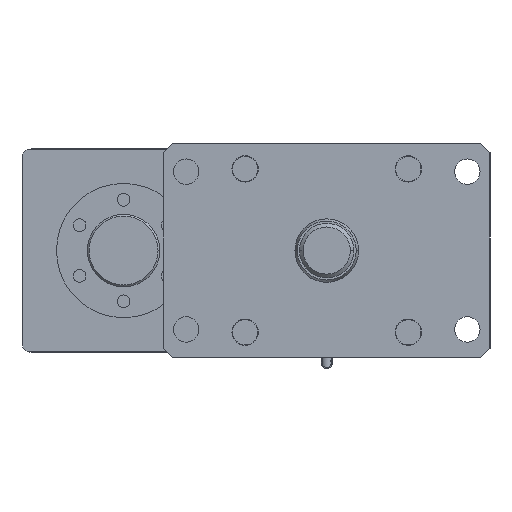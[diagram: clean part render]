
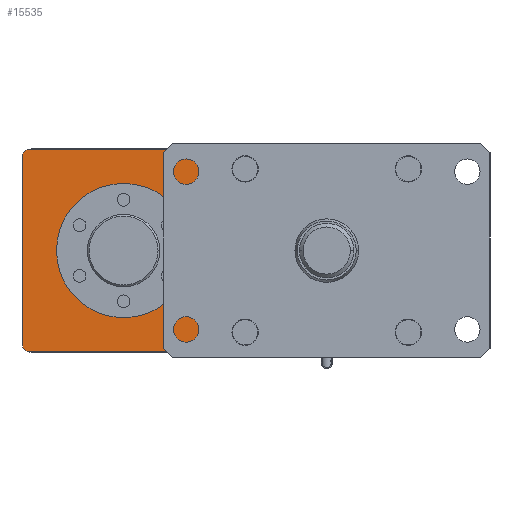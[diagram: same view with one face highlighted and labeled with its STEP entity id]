
A CAD part, front view. The second image highlights one B-rep face of the part: STEP entity #15535.
In plain terms, the highlighted planar face has unit normal (0, -1, 0).
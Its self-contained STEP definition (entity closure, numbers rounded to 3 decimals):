
#39 = DIRECTION ( 'NONE',  ( -1., 0., 0. ) ) ;
#62 = CARTESIAN_POINT ( 'NONE',  ( -167.8, 0., 56. ) ) ;
#164 = VERTEX_POINT ( 'NONE', #12660 ) ;
#197 = CIRCLE ( 'NONE', #7258, 5. ) ;
#329 = LINE ( 'NONE', #13596, #6973 ) ;
#465 = VERTEX_POINT ( 'NONE', #10679 ) ;
#843 = ORIENTED_EDGE ( 'NONE', *, *, #2552, .F. ) ;
#851 = DIRECTION ( 'NONE',  ( -1., 0., 0. ) ) ;
#911 = AXIS2_PLACEMENT_3D ( 'NONE', #4147, #12811, #5397 ) ;
#1033 = CIRCLE ( 'NONE', #14967, 5. ) ;
#1332 = ORIENTED_EDGE ( 'NONE', *, *, #4478, .T. ) ;
#1899 = CARTESIAN_POINT ( 'NONE',  ( -167.8, 0., 52.4 ) ) ;
#1992 = EDGE_LOOP ( 'NONE', ( #12043, #11557, #2726, #1332, #10329, #14649, #9023 ) ) ;
#2257 = VERTEX_POINT ( 'NONE', #7689 ) ;
#2552 = EDGE_CURVE ( 'NONE', #6681, #14358, #4606, .T. ) ;
#2726 = ORIENTED_EDGE ( 'NONE', *, *, #13349, .T. ) ;
#2752 = EDGE_LOOP ( 'NONE', ( #843, #8489 ) ) ;
#2757 = VECTOR ( 'NONE', #10331, 1000. ) ;
#2807 = FACE_OUTER_BOUND ( 'NONE', #1992, .T. ) ;
#2929 = CARTESIAN_POINT ( 'NONE',  ( -112., 0., -37. ) ) ;
#3118 = CARTESIAN_POINT ( 'NONE',  ( -163., 0., -51. ) ) ;
#3265 = VERTEX_POINT ( 'NONE', #9134 ) ;
#3645 = DIRECTION ( 'NONE',  ( 0., 0., 1. ) ) ;
#3763 = VERTEX_POINT ( 'NONE', #5339 ) ;
#4115 = CARTESIAN_POINT ( 'NONE',  ( -168., 0., -55.8 ) ) ;
#4147 = CARTESIAN_POINT ( 'NONE',  ( -163., 0., 51. ) ) ;
#4315 = EDGE_CURVE ( 'NONE', #4675, #164, #11899, .T. ) ;
#4383 = DIRECTION ( 'NONE',  ( -1., 0., 0. ) ) ;
#4478 = EDGE_CURVE ( 'NONE', #2257, #4675, #12445, .T. ) ;
#4606 = CIRCLE ( 'NONE', #6055, 37. ) ;
#4675 = VERTEX_POINT ( 'NONE', #1899 ) ;
#4689 = EDGE_CURVE ( 'NONE', #3763, #7551, #197, .T. ) ;
#5013 = DIRECTION ( 'NONE',  ( 0., 0., -1. ) ) ;
#5323 = LINE ( 'NONE', #4115, #2757 ) ;
#5339 = CARTESIAN_POINT ( 'NONE',  ( -56.2, 0., 52.4 ) ) ;
#5397 = DIRECTION ( 'NONE',  ( -1., 0., 0. ) ) ;
#5406 = DIRECTION ( 'NONE',  ( 0., 1., 0. ) ) ;
#5650 = CARTESIAN_POINT ( 'NONE',  ( -61., 0., 51. ) ) ;
#5887 = CARTESIAN_POINT ( 'NONE',  ( -112., 0., 0. ) ) ;
#6055 = AXIS2_PLACEMENT_3D ( 'NONE', #14888, #7482, #39 ) ;
#6192 = CARTESIAN_POINT ( 'NONE',  ( -112., 0., 37. ) ) ;
#6681 = VERTEX_POINT ( 'NONE', #6192 ) ;
#6896 = DIRECTION ( 'NONE',  ( -1., 0., 0. ) ) ;
#6973 = VECTOR ( 'NONE', #3645, 1000. ) ;
#7137 = DIRECTION ( 'NONE',  ( -1., 0., 0. ) ) ;
#7258 = AXIS2_PLACEMENT_3D ( 'NONE', #5650, #14304, #6896 ) ;
#7301 = EDGE_CURVE ( 'NONE', #3265, #3763, #329, .T. ) ;
#7361 = AXIS2_PLACEMENT_3D ( 'NONE', #7842, #5406, #14068 ) ;
#7482 = DIRECTION ( 'NONE',  ( 0., -1., 0. ) ) ;
#7551 = VERTEX_POINT ( 'NONE', #12937 ) ;
#7689 = CARTESIAN_POINT ( 'NONE',  ( -164.4, 0., 55.8 ) ) ;
#7842 = CARTESIAN_POINT ( 'NONE',  ( -168., 0., 56. ) ) ;
#8249 = CARTESIAN_POINT ( 'NONE',  ( -168., 0., 55.8 ) ) ;
#8489 = ORIENTED_EDGE ( 'NONE', *, *, #12304, .F. ) ;
#9023 = ORIENTED_EDGE ( 'NONE', *, *, #10001, .T. ) ;
#9134 = CARTESIAN_POINT ( 'NONE',  ( -56.2, 0., -55.8 ) ) ;
#9366 = VECTOR ( 'NONE', #5013, 1000. ) ;
#10001 = EDGE_CURVE ( 'NONE', #465, #3265, #5323, .T. ) ;
#10314 = PLANE ( 'NONE',  #7361 ) ;
#10329 = ORIENTED_EDGE ( 'NONE', *, *, #4315, .T. ) ;
#10331 = DIRECTION ( 'NONE',  ( 1., 0., 0. ) ) ;
#10679 = CARTESIAN_POINT ( 'NONE',  ( -164.4, 0., -55.8 ) ) ;
#11487 = EDGE_CURVE ( 'NONE', #164, #465, #1033, .T. ) ;
#11557 = ORIENTED_EDGE ( 'NONE', *, *, #4689, .T. ) ;
#11630 = VECTOR ( 'NONE', #851, 1000. ) ;
#11795 = DIRECTION ( 'NONE',  ( 0., -1., 0. ) ) ;
#11899 = LINE ( 'NONE', #62, #9366 ) ;
#12043 = ORIENTED_EDGE ( 'NONE', *, *, #7301, .T. ) ;
#12304 = EDGE_CURVE ( 'NONE', #14358, #6681, #12441, .T. ) ;
#12441 = CIRCLE ( 'NONE', #13735, 37. ) ;
#12445 = CIRCLE ( 'NONE', #911, 5. ) ;
#12660 = CARTESIAN_POINT ( 'NONE',  ( -167.8, 0., -52.4 ) ) ;
#12811 = DIRECTION ( 'NONE',  ( 0., -1., 0. ) ) ;
#12937 = CARTESIAN_POINT ( 'NONE',  ( -59.6, 0., 55.8 ) ) ;
#13349 = EDGE_CURVE ( 'NONE', #7551, #2257, #14156, .T. ) ;
#13596 = CARTESIAN_POINT ( 'NONE',  ( -56.2, 0., 56. ) ) ;
#13735 = AXIS2_PLACEMENT_3D ( 'NONE', #5887, #14543, #7137 ) ;
#14068 = DIRECTION ( 'NONE',  ( -1., 0., 0. ) ) ;
#14156 = LINE ( 'NONE', #8249, #11630 ) ;
#14304 = DIRECTION ( 'NONE',  ( 0., -1., 0. ) ) ;
#14358 = VERTEX_POINT ( 'NONE', #2929 ) ;
#14543 = DIRECTION ( 'NONE',  ( 0., -1., 0. ) ) ;
#14649 = ORIENTED_EDGE ( 'NONE', *, *, #11487, .T. ) ;
#14888 = CARTESIAN_POINT ( 'NONE',  ( -112., 0., 0. ) ) ;
#14967 = AXIS2_PLACEMENT_3D ( 'NONE', #3118, #11795, #4383 ) ;
#15535 = ADVANCED_FACE ( 'NONE', ( #2807, #15658 ), #10314, .F. ) ;
#15658 = FACE_BOUND ( 'NONE', #2752, .T. ) ;
